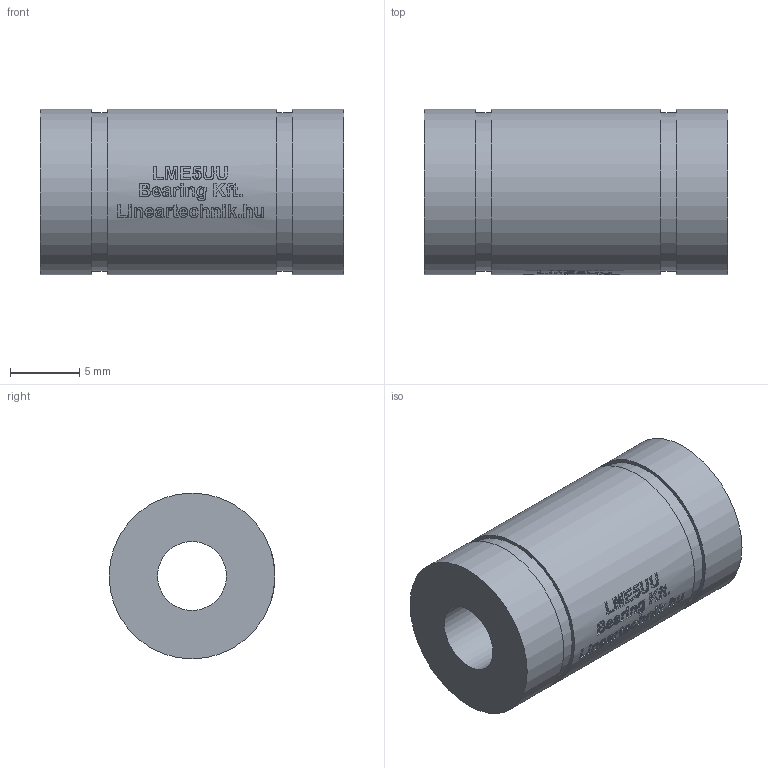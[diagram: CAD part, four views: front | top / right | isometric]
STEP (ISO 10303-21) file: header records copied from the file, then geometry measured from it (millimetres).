
FILE_DESCRIPTION(/* description */ (''),/* implementation_level */ '2;1');
FILE_NAME(/* name */ 'LME5UU',/* time_stamp */ '2019-05-17T10:33:43+02:00',/* author */ ('VĂ©gh MĂˇtĂ©'),/* organization */ ('Bearing Kft'),/* preprocessor_version */ 'ST-DEVELOPER v16.7',/* originating_system */ 'DEX',/* authorisation */ $);
FILE_SCHEMA (('CONFIG_CONTROL_DESIGN','AUTOMOTIVE_DESIGN {1 0 10303 214 3 1 1}'));
Length unit declared in the file: millimetre
Products named in the file (1): LME5UU
Bounding box: 22 x 12 x 12 mm (x, y, z)
Volume: 2034.9 mm3; surface area: 1407.5 mm2
Topology: 1 solids, 1 shells, 310 faces, 782 edges, 522 vertices
Faces by surface type: plane 166, bspline 94, cylinder 50
Full cylindrical faces by diameter (mm): 5 x1, 11.5 x2, 12 x3
Entity records: 13838 total; most frequent: CARTESIAN_POINT 6875, ORIENTED_EDGE 1546, DIRECTION 1165, EDGE_CURVE 773, VERTEX_POINT 520, LINE 431, VECTOR 431, EDGE_LOOP 367
